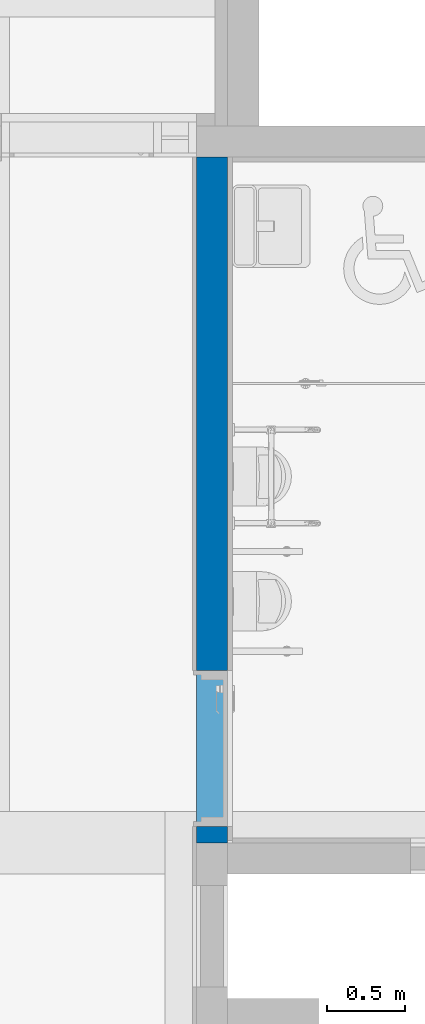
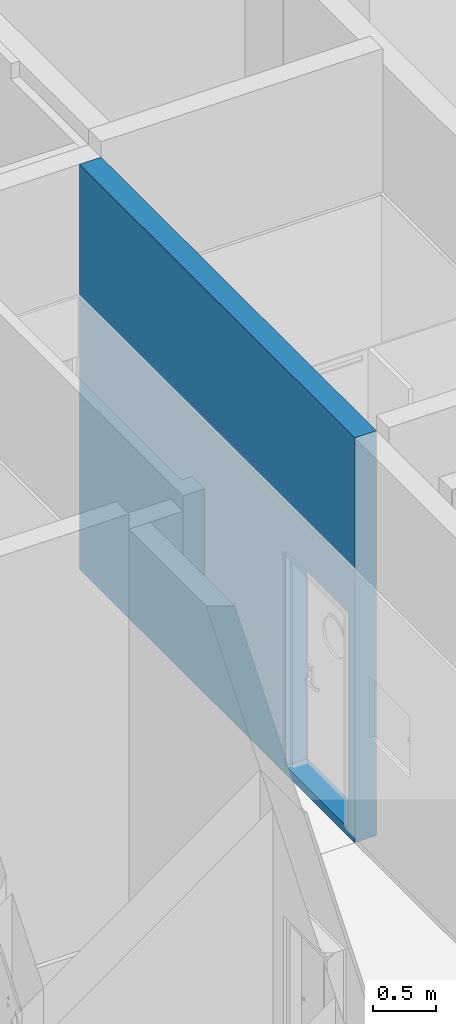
# One storey, part 61 of 81: 1 wall, 1 opening.
"""IFC2X3 building model written with IfcOpenShell, lengths in millimetres."""

from ifc_helpers import new_model, entity, si_unit, converted_unit, derived_unit, direction, frame, frame_2d, origin, place, context, subcontext, project, spatial, polyline, rectangle, extrude, clip, bounded_halfspace, material, layer, layer_set, layer_usage, type_object, element, save


model = new_model("IFC2X3")

# Units and contexts
model_context = context("Model", 3, precision=0.01, world=origin(), true_north=direction((6.123031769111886e-17, 1.0)))
body_context = subcontext(model_context, "Body", "Model", "MODEL_VIEW")
ifc_project = project(units=[si_unit("LENGTHUNIT", "METRE", prefix="MILLI"), si_unit("AREAUNIT", "SQUARE_METRE"), si_unit("VOLUMEUNIT", "CUBIC_METRE"), converted_unit("PLANEANGLEUNIT", "DEGREE", entity("IfcRatioMeasure", 0.017453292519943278), si_unit("PLANEANGLEUNIT", "RADIAN"), dimensions=[0, 0, 0, 0, 0, 0, 0]), si_unit("MASSUNIT", "GRAM", prefix="KILO"), derived_unit("MASSDENSITYUNIT", [(si_unit("MASSUNIT", "GRAM", prefix="KILO"), 1), (si_unit("LENGTHUNIT", "METRE"), -3)]), derived_unit("MOMENTOFINERTIAUNIT", [(si_unit("LENGTHUNIT", "METRE"), 4)]), si_unit("TIMEUNIT", "SECOND"), si_unit("FREQUENCYUNIT", "HERTZ"), si_unit("THERMODYNAMICTEMPERATUREUNIT", "DEGREE_CELSIUS"), derived_unit("THERMALTRANSMITTANCEUNIT", [(si_unit("MASSUNIT", "GRAM", prefix="KILO"), 1), (si_unit("THERMODYNAMICTEMPERATUREUNIT", "KELVIN"), -1), (si_unit("TIMEUNIT", "SECOND"), -3)]), derived_unit("VOLUMETRICFLOWRATEUNIT", [(si_unit("LENGTHUNIT", "METRE"), 3), (si_unit("TIMEUNIT", "SECOND"), -1)]), derived_unit("MASSFLOWRATEUNIT", [(si_unit("MASSUNIT", "GRAM", prefix="KILO"), 1), (si_unit("TIMEUNIT", "SECOND"), -1)]), derived_unit("ROTATIONALFREQUENCYUNIT", [(si_unit("TIMEUNIT", "SECOND"), -1)]), si_unit("ELECTRICCURRENTUNIT", "AMPERE"), si_unit("ELECTRICVOLTAGEUNIT", "VOLT"), si_unit("POWERUNIT", "WATT"), si_unit("FORCEUNIT", "NEWTON", prefix="KILO"), si_unit("ILLUMINANCEUNIT", "LUX"), si_unit("LUMINOUSFLUXUNIT", "LUMEN"), si_unit("LUMINOUSINTENSITYUNIT", "CANDELA"), derived_unit("USERDEFINED", [(si_unit("MASSUNIT", "GRAM", prefix="KILO"), -1), (si_unit("LENGTHUNIT", "METRE"), -2), (si_unit("TIMEUNIT", "SECOND"), 3), (si_unit("LUMINOUSFLUXUNIT", "LUMEN"), 1)]), derived_unit("SOUNDPOWERUNIT", [(si_unit("MASSUNIT", "GRAM", prefix="KILO"), 1), (si_unit("LENGTHUNIT", "METRE"), 2), (si_unit("TIMEUNIT", "SECOND"), -3)]), derived_unit("SOUNDPRESSUREUNIT", [(si_unit("MASSUNIT", "GRAM", prefix="KILO"), 1), (si_unit("LENGTHUNIT", "METRE"), -1), (si_unit("TIMEUNIT", "SECOND"), -2)]), derived_unit("LINEARVELOCITYUNIT", [(si_unit("LENGTHUNIT", "METRE"), 1), (si_unit("TIMEUNIT", "SECOND"), -1)]), si_unit("PRESSUREUNIT", "PASCAL"), derived_unit("USERDEFINED", [(si_unit("LENGTHUNIT", "METRE"), -2), (si_unit("MASSUNIT", "GRAM", prefix="KILO"), 1), (si_unit("TIMEUNIT", "SECOND"), -2)]), derived_unit("LINEARFORCEUNIT", [(si_unit("MASSUNIT", "GRAM", prefix="KILO"), 1), (si_unit("LENGTHUNIT", "METRE"), 1), (si_unit("TIMEUNIT", "SECOND"), -2), (si_unit("LENGTHUNIT", "METRE"), -1)]), derived_unit("PLANARFORCEUNIT", [(si_unit("MASSUNIT", "GRAM", prefix="KILO"), 1), (si_unit("LENGTHUNIT", "METRE"), 1), (si_unit("TIMEUNIT", "SECOND"), -2), (si_unit("LENGTHUNIT", "METRE"), -2)])], contexts=[model_context])

# Site, building, storey
site_placement = place(None, frame((-14167.972527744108, -657.2125860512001, 0.0)))
site = spatial("IfcSite", under=ifc_project, at=site_placement, Name="Default", CompositionType="ELEMENT")
building_placement = place(site_placement, origin())
building = spatial("IfcBuilding", under=site, at=building_placement, Name="Sample Building", CompositionType="ELEMENT")
storey_placement = place(building_placement, frame((0.0, 0.0, 13400.0)))
storey = spatial("IfcBuildingStorey", under=building, at=storey_placement, Name="지상 4층", CompositionType="ELEMENT", Elevation=13400.00000000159)

# Wall, opening
ifc_material = material(Name="KBIMS-콘크리트")
ifc_layer = layer(ifc_material, 200.0)
ifc_layer_set = layer_set([ifc_layer], Name="기본 벽:WA111-철근콘크리트구조 벽 200mm_CW1")
ifc_layer_usage = layer_usage(ifc_layer_set, "AXIS2", "NEGATIVE", 100.0)
wall_type = type_object("IfcWallType", Name="기본 벽:WA111-철근콘크리트구조 벽 200mm_CW1", PredefinedType="STANDARD", material=ifc_layer_set)
wall_placement = place(storey_placement, frame((38067.96379814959, 22457.212298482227, -2.3000097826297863e-09), z_axis=(0.0, 0.0, 1.0), x_axis=(0.0, 1.0, 0.0)))
wall = element("IfcWallStandardCase", 1, at=wall_placement, inside=storey, type_object=wall_type, material=ifc_layer_usage, Name="기본 벽:WA111-철근콘크리트구조 벽 200mm_CW1", ObjectType="기본 벽:WA111-철근콘크리트구조 벽 200mm_CW1", context=body_context, shape_type="Clipping", body=[
    clip(extrude(rectangle(XDim=4399.999996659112, YDim=199.99999999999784, at=frame_2d((2199.999998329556, 0.0), x_axis=(-1.0, 0.0))), origin(), (0.0, 0.0, 1.0), 3950.0000000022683), bounded_halfspace(frame((0.0, -100.0, 3950.0), z_axis=(0.0, 0.0, -1.0), x_axis=(0.0, -1.0, 0.0)), True, frame((0.0, -100.0, 3950.0), z_axis=(0.0, 0.0, -1.0), x_axis=(0.0, -1.0, 0.0)), polyline([(0.0, 0.0), (-60960.0, 0.0), (-60960.0, -1341120.0), (0.0, -1341120.0), (0.0, 0.0)]))),
])
opening_placement = place(wall_placement, frame((1106.4605196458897, 100.0, 80.0)))
element("IfcOpeningElement", 2, at=opening_placement, cuts=wall, Name="DR111-외여닫이문(철재,일반)_유리포함(원형):DR111-외여닫이문(철재, 일반)_유리포함 (원형)_2100x1000:1", ObjectType="Opening", context=body_context, shape_type="SweptSolid", body=[
    extrude(rectangle(XDim=2099.999999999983, YDim=999.9999999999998, at=frame_2d((1049.999999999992, 499.9999999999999), x_axis=(1.0, 0.0))), frame((0.0, 0.0, 0.0), z_axis=(0.0, -1.0, 0.0), x_axis=(0.0, 0.0, 1.0)), (0.0, 0.0, 1.0), 200.0),
])

save(model, "model.ifc")
